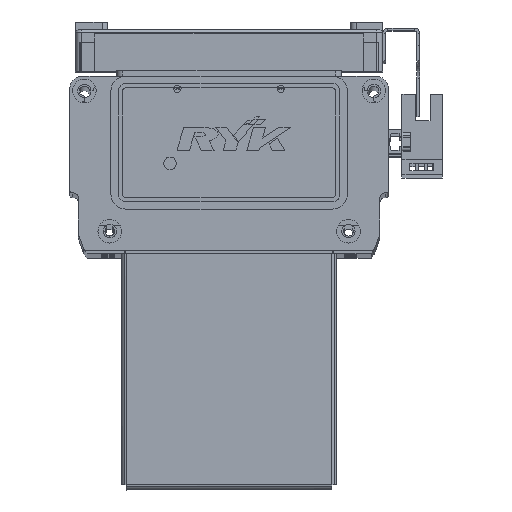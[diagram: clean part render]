
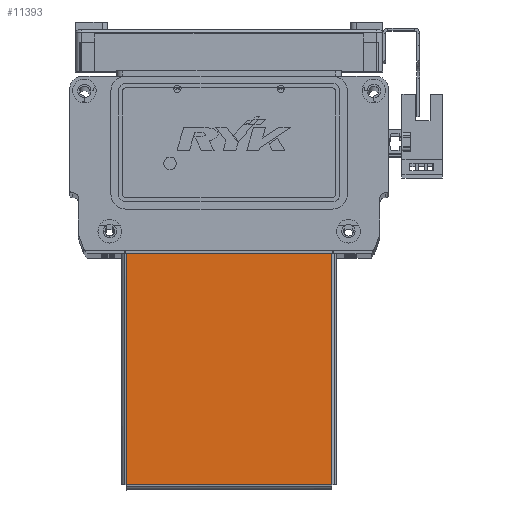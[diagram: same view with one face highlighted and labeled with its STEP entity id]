
A CAD part, top view. The second image highlights one B-rep face of the part: STEP entity #11393.
In plain terms, the highlighted planar face has unit normal (0, 0, 1) as drawn and (0, 1, 0) by its records, which use the part's own axes.
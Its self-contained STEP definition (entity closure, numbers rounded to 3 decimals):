
#3640 = VECTOR ( 'NONE', #13404, 1000. ) ;
#3645 = LINE ( 'NONE', #13373, #3640 ) ;
#3732 = LINE ( 'NONE', #13423, #3735 ) ;
#3734 = VECTOR ( 'NONE', #13420, 1000. ) ;
#3735 = VECTOR ( 'NONE', #13443, 1000. ) ;
#3739 = LINE ( 'NONE', #13434, #3734 ) ;
#3780 = LINE ( 'NONE', #13568, #3803 ) ;
#3803 = VECTOR ( 'NONE', #13555, 1000. ) ;
#11393 = ADVANCED_FACE ( 'NONE', ( #45216 ), #38444, .T. ) ;
#13373 = CARTESIAN_POINT ( 'NONE',  ( -34.763, 0., -39.5 ) ) ;
#13404 = DIRECTION ( 'NONE',  ( 0., 0., 1. ) ) ;
#13420 = DIRECTION ( 'NONE',  ( 1., 0., 0. ) ) ;
#13423 = CARTESIAN_POINT ( 'NONE',  ( 34.763, 0., 38.793 ) ) ;
#13434 = CARTESIAN_POINT ( 'NONE',  ( -34.793, 0., 38.763 ) ) ;
#13443 = DIRECTION ( 'NONE',  ( 0., 0., -1. ) ) ;
#13555 = DIRECTION ( 'NONE',  ( -1., 0., 0. ) ) ;
#13568 = CARTESIAN_POINT ( 'NONE',  ( -35.5, 0., -39.5 ) ) ;
#17465 = EDGE_CURVE ( 'NONE', #53969, #53960, #3645, .T. ) ;
#17483 = EDGE_CURVE ( 'NONE', #53962, #53970, #3732, .T. ) ;
#17484 = EDGE_CURVE ( 'NONE', #53960, #53962, #3739, .T. ) ;
#17535 = EDGE_CURVE ( 'NONE', #53970, #53969, #3780, .T. ) ;
#23600 = EDGE_LOOP ( 'NONE', ( #25572, #25580, #25571, #25593 ) ) ;
#25571 = ORIENTED_EDGE ( 'NONE', *, *, #17483, .T. ) ;
#25572 = ORIENTED_EDGE ( 'NONE', *, *, #17465, .T. ) ;
#25580 = ORIENTED_EDGE ( 'NONE', *, *, #17484, .T. ) ;
#25593 = ORIENTED_EDGE ( 'NONE', *, *, #17535, .T. ) ;
#27150 = CARTESIAN_POINT ( 'NONE',  ( 34.763, 0., -39.5 ) ) ;
#27171 = CARTESIAN_POINT ( 'NONE',  ( 34.763, 0., 38.763 ) ) ;
#27189 = CARTESIAN_POINT ( 'NONE',  ( -34.763, 0., -39.5 ) ) ;
#27193 = CARTESIAN_POINT ( 'NONE',  ( -34.763, 0., 38.763 ) ) ;
#38444 = PLANE ( 'NONE',  #49800 ) ;
#38529 = DIRECTION ( 'NONE',  ( 0., 0., 1. ) ) ;
#38550 = CARTESIAN_POINT ( 'NONE',  ( 0., 0., 0. ) ) ;
#38564 = DIRECTION ( 'NONE',  ( 0., 1., 0. ) ) ;
#45216 = FACE_OUTER_BOUND ( 'NONE', #23600, .T. ) ;
#49800 = AXIS2_PLACEMENT_3D ( 'NONE', #38550, #38564, #38529 ) ;
#53960 = VERTEX_POINT ( 'NONE', #27193 ) ;
#53962 = VERTEX_POINT ( 'NONE', #27171 ) ;
#53969 = VERTEX_POINT ( 'NONE', #27189 ) ;
#53970 = VERTEX_POINT ( 'NONE', #27150 ) ;
